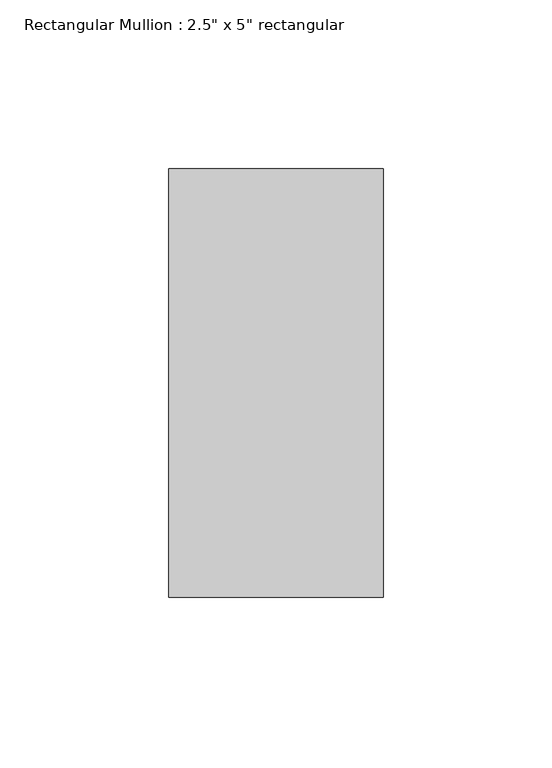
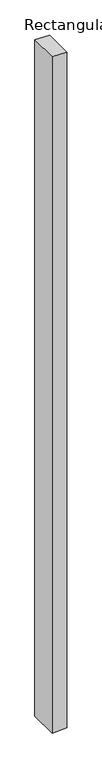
"""IFC4 building model written with IfcOpenShell, lengths in millimetres: member geometry."""

from ifc_helpers import new_model, si_unit, frame, origin, place, context, project, spatial, polyline, outline, extrude, source, transform, mapped, element, save


def member_3cf8d118(model_context):
    return source(origin(), model_context, "Body", "SweptSolid", [
        extrude(outline(polyline([(0.0, 0.0), (1.3803075, -63.5), (-3057.220738, -63.5), (-3056.2153078, 0.0), (0.0, 0.0)])), frame((0.0, -63.5, 0.0), z_axis=(0.0, 1.0, 0.0), x_axis=(0.0, 0.0, 1.0)), (0.0, 0.0, 1.0), 127.0),
    ])


if __name__ == "__main__":
    model = new_model("IFC4")
    model_context = context("Model", 3, world=origin())
    ifc_project = project(units=[si_unit("LENGTHUNIT", "METRE", prefix="MILLI")], contexts=[model_context])
    site = spatial("IfcSite", under=ifc_project)
    building = spatial("IfcBuilding", under=site)
    placement = place(None, origin())
    member_shape = member_3cf8d118(model_context)
    element("IfcMember", 1, ObjectType="Rectangular Mullion : 2.5\" x 5\" rectangular", at=placement, inside=building, context=model_context, shape_type="MappedRepresentation", body=[
        mapped(member_shape, transform((0.0, 0.0, 0.0), x_axis=(1.0, 0.0, 0.0), y_axis=(0.0, 1.0, 0.0), z_axis=(0.0, 0.0, 1.0))),
    ])
    save(model, "model.ifc")
